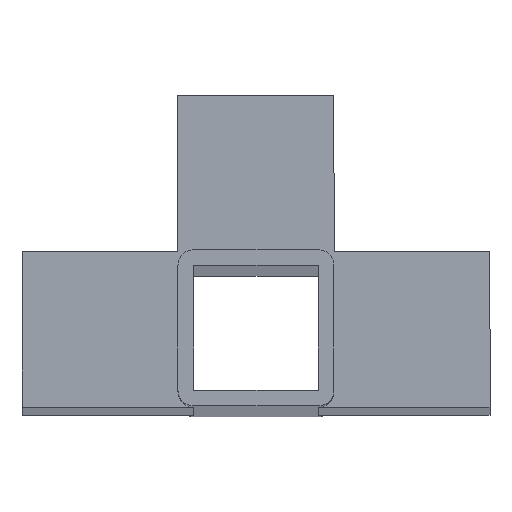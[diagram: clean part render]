
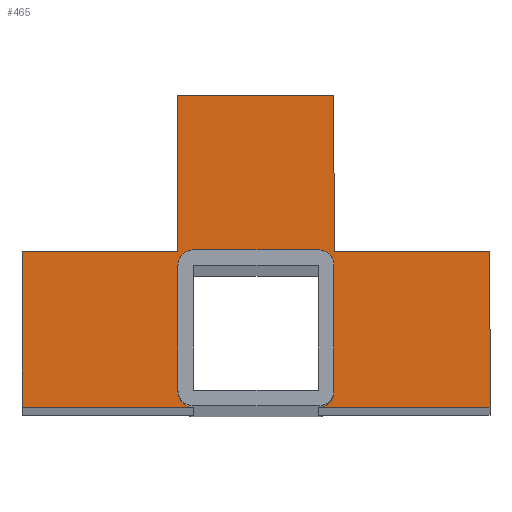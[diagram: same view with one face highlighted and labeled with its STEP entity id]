
A CAD part, top view. The second image highlights one B-rep face of the part: STEP entity #465.
In plain terms, the highlighted planar face has unit normal (0, 0, 1).
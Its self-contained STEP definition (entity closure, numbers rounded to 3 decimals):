
#29 = VERTEX_POINT ( 'NONE', #337 ) ;
#44 = ORIENTED_EDGE ( 'NONE', *, *, #412, .T. ) ;
#55 = LINE ( 'NONE', #994, #571 ) ;
#69 = CARTESIAN_POINT ( 'NONE',  ( -45., -15., 450. ) ) ;
#91 = VECTOR ( 'NONE', #210, 1000. ) ;
#99 = VECTOR ( 'NONE', #417, 1000. ) ;
#101 = CARTESIAN_POINT ( 'NONE',  ( -15., 12., 450. ) ) ;
#106 = CARTESIAN_POINT ( 'NONE',  ( -15., 15., 450. ) ) ;
#145 = VECTOR ( 'NONE', #169, 1000. ) ;
#147 = ORIENTED_EDGE ( 'NONE', *, *, #992, .F. ) ;
#169 = DIRECTION ( 'NONE',  ( -1., 0., 0. ) ) ;
#170 = CARTESIAN_POINT ( 'NONE',  ( 0., 15., 450. ) ) ;
#194 = EDGE_LOOP ( 'NONE', ( #505, #815, #44, #809, #506, #230, #425, #833, #1317, #364, #1320, #147, #982, #422, #648, #983 ) ) ;
#210 = DIRECTION ( 'NONE',  ( 0., -1., 0. ) ) ;
#214 = VERTEX_POINT ( 'NONE', #764 ) ;
#226 = VERTEX_POINT ( 'NONE', #256 ) ;
#230 = ORIENTED_EDGE ( 'NONE', *, *, #529, .F. ) ;
#251 = EDGE_CURVE ( 'NONE', #1288, #1078, #454, .T. ) ;
#256 = CARTESIAN_POINT ( 'NONE',  ( 45., 15., 450. ) ) ;
#276 = AXIS2_PLACEMENT_3D ( 'NONE', #700, #1219, #1117 ) ;
#280 = DIRECTION ( 'NONE',  ( 1., 0., 0. ) ) ;
#281 = VECTOR ( 'NONE', #623, 1000. ) ;
#289 = CARTESIAN_POINT ( 'NONE',  ( 0., 0., 450. ) ) ;
#307 = VECTOR ( 'NONE', #369, 1000. ) ;
#319 = CIRCLE ( 'NONE', #276, 3. ) ;
#322 = EDGE_CURVE ( 'NONE', #434, #475, #55, .T. ) ;
#331 = VERTEX_POINT ( 'NONE', #1201 ) ;
#337 = CARTESIAN_POINT ( 'NONE',  ( -15., 45., 450. ) ) ;
#341 = LINE ( 'NONE', #682, #307 ) ;
#364 = ORIENTED_EDGE ( 'NONE', *, *, #420, .F. ) ;
#369 = DIRECTION ( 'NONE',  ( 0., -1., 0. ) ) ;
#378 = CARTESIAN_POINT ( 'NONE',  ( 0., -15., 450. ) ) ;
#391 = VERTEX_POINT ( 'NONE', #709 ) ;
#404 = VERTEX_POINT ( 'NONE', #916 ) ;
#409 = DIRECTION ( 'NONE',  ( 1., 0., 0. ) ) ;
#412 = EDGE_CURVE ( 'NONE', #532, #434, #319, .T. ) ;
#417 = DIRECTION ( 'NONE',  ( -1., 0., 0. ) ) ;
#420 = EDGE_CURVE ( 'NONE', #29, #1146, #943, .T. ) ;
#422 = ORIENTED_EDGE ( 'NONE', *, *, #251, .F. ) ;
#425 = ORIENTED_EDGE ( 'NONE', *, *, #615, .F. ) ;
#429 = LINE ( 'NONE', #905, #570 ) ;
#434 = VERTEX_POINT ( 'NONE', #1228 ) ;
#446 = LINE ( 'NONE', #996, #1105 ) ;
#454 = LINE ( 'NONE', #378, #145 ) ;
#465 = ADVANCED_FACE ( 'NONE', ( #1150 ), #1120, .T. ) ;
#475 = VERTEX_POINT ( 'NONE', #498 ) ;
#485 = DIRECTION ( 'NONE',  ( 0., -1., 0. ) ) ;
#487 = DIRECTION ( 'NONE',  ( 0., -1., 0. ) ) ;
#488 = DIRECTION ( 'NONE',  ( 1., 0., 0. ) ) ;
#496 = AXIS2_PLACEMENT_3D ( 'NONE', #289, #1106, #605 ) ;
#498 = CARTESIAN_POINT ( 'NONE',  ( 15., -12., 450. ) ) ;
#505 = ORIENTED_EDGE ( 'NONE', *, *, #1241, .F. ) ;
#506 = ORIENTED_EDGE ( 'NONE', *, *, #576, .F. ) ;
#510 = CARTESIAN_POINT ( 'NONE',  ( 0., 45., 450. ) ) ;
#517 = EDGE_CURVE ( 'NONE', #1208, #29, #872, .T. ) ;
#518 = CARTESIAN_POINT ( 'NONE',  ( 12., 15., 450. ) ) ;
#529 = EDGE_CURVE ( 'NONE', #391, #692, #987, .T. ) ;
#532 = VERTEX_POINT ( 'NONE', #518 ) ;
#562 = LINE ( 'NONE', #918, #1071 ) ;
#568 = CIRCLE ( 'NONE', #760, 3. ) ;
#570 = VECTOR ( 'NONE', #485, 1000. ) ;
#571 = VECTOR ( 'NONE', #487, 1000. ) ;
#576 = EDGE_CURVE ( 'NONE', #692, #475, #770, .T. ) ;
#584 = VECTOR ( 'NONE', #637, 1000. ) ;
#586 = DIRECTION ( 'NONE',  ( 1., 0., 0. ) ) ;
#605 = DIRECTION ( 'NONE',  ( 1., 0., 0. ) ) ;
#610 = CARTESIAN_POINT ( 'NONE',  ( -15., 0., 450. ) ) ;
#615 = EDGE_CURVE ( 'NONE', #226, #391, #429, .T. ) ;
#623 = DIRECTION ( 'NONE',  ( 0., 1., 0. ) ) ;
#636 = CARTESIAN_POINT ( 'NONE',  ( -45., 15., 450. ) ) ;
#637 = DIRECTION ( 'NONE',  ( 0., 1., 0. ) ) ;
#641 = CARTESIAN_POINT ( 'NONE',  ( -45., 0., 450. ) ) ;
#643 = DIRECTION ( 'NONE',  ( 1., 0., 0. ) ) ;
#648 = ORIENTED_EDGE ( 'NONE', *, *, #1163, .F. ) ;
#682 = CARTESIAN_POINT ( 'NONE',  ( 15., 0., 450. ) ) ;
#692 = VERTEX_POINT ( 'NONE', #728 ) ;
#700 = CARTESIAN_POINT ( 'NONE',  ( 12., 12., 450. ) ) ;
#709 = CARTESIAN_POINT ( 'NONE',  ( 45., -15., 450. ) ) ;
#712 = AXIS2_PLACEMENT_3D ( 'NONE', #934, #726, #409 ) ;
#726 = DIRECTION ( 'NONE',  ( 0., 0., 1. ) ) ;
#728 = CARTESIAN_POINT ( 'NONE',  ( 12., -15., 450. ) ) ;
#760 = AXIS2_PLACEMENT_3D ( 'NONE', #1205, #1114, #488 ) ;
#764 = CARTESIAN_POINT ( 'NONE',  ( -15., -12., 450. ) ) ;
#766 = VECTOR ( 'NONE', #586, 1000. ) ;
#770 = CIRCLE ( 'NONE', #806, 3. ) ;
#803 = DIRECTION ( 'NONE',  ( 1., 0., 0. ) ) ;
#806 = AXIS2_PLACEMENT_3D ( 'NONE', #991, #1103, #280 ) ;
#809 = ORIENTED_EDGE ( 'NONE', *, *, #322, .T. ) ;
#815 = ORIENTED_EDGE ( 'NONE', *, *, #896, .T. ) ;
#820 = VECTOR ( 'NONE', #803, 1000. ) ;
#833 = ORIENTED_EDGE ( 'NONE', *, *, #1200, .F. ) ;
#839 = CARTESIAN_POINT ( 'NONE',  ( 0., -15., 450. ) ) ;
#872 = LINE ( 'NONE', #610, #281 ) ;
#891 = EDGE_CURVE ( 'NONE', #1078, #1333, #902, .T. ) ;
#896 = EDGE_CURVE ( 'NONE', #404, #532, #562, .T. ) ;
#902 = LINE ( 'NONE', #641, #584 ) ;
#905 = CARTESIAN_POINT ( 'NONE',  ( 45., 0., 450. ) ) ;
#916 = CARTESIAN_POINT ( 'NONE',  ( -12., 15., 450. ) ) ;
#918 = CARTESIAN_POINT ( 'NONE',  ( 0., 15., 450. ) ) ;
#934 = CARTESIAN_POINT ( 'NONE',  ( -12., 12., 450. ) ) ;
#943 = LINE ( 'NONE', #510, #820 ) ;
#982 = ORIENTED_EDGE ( 'NONE', *, *, #891, .F. ) ;
#983 = ORIENTED_EDGE ( 'NONE', *, *, #1268, .F. ) ;
#987 = LINE ( 'NONE', #839, #99 ) ;
#991 = CARTESIAN_POINT ( 'NONE',  ( 12., -12., 450. ) ) ;
#992 = EDGE_CURVE ( 'NONE', #1333, #1208, #446, .T. ) ;
#994 = CARTESIAN_POINT ( 'NONE',  ( 15., 0., 450. ) ) ;
#996 = CARTESIAN_POINT ( 'NONE',  ( 0., 15., 450. ) ) ;
#1023 = EDGE_CURVE ( 'NONE', #1146, #331, #341, .T. ) ;
#1039 = CARTESIAN_POINT ( 'NONE',  ( -12., -15., 450. ) ) ;
#1071 = VECTOR ( 'NONE', #643, 1000. ) ;
#1078 = VERTEX_POINT ( 'NONE', #69 ) ;
#1094 = LINE ( 'NONE', #170, #766 ) ;
#1100 = CARTESIAN_POINT ( 'NONE',  ( 15., 45., 450. ) ) ;
#1103 = DIRECTION ( 'NONE',  ( 0., 0., 1. ) ) ;
#1105 = VECTOR ( 'NONE', #1115, 1000. ) ;
#1106 = DIRECTION ( 'NONE',  ( 0., 0., 1. ) ) ;
#1114 = DIRECTION ( 'NONE',  ( 0., 0., 1. ) ) ;
#1115 = DIRECTION ( 'NONE',  ( 1., 0., 0. ) ) ;
#1117 = DIRECTION ( 'NONE',  ( 1., 0., 0. ) ) ;
#1120 = PLANE ( 'NONE',  #496 ) ;
#1146 = VERTEX_POINT ( 'NONE', #1100 ) ;
#1150 = FACE_OUTER_BOUND ( 'NONE', #194, .T. ) ;
#1163 = EDGE_CURVE ( 'NONE', #214, #1288, #568, .T. ) ;
#1200 = EDGE_CURVE ( 'NONE', #331, #226, #1094, .T. ) ;
#1201 = CARTESIAN_POINT ( 'NONE',  ( 15., 15., 450. ) ) ;
#1205 = CARTESIAN_POINT ( 'NONE',  ( -12., -12., 450. ) ) ;
#1208 = VERTEX_POINT ( 'NONE', #106 ) ;
#1219 = DIRECTION ( 'NONE',  ( 0., 0., -1. ) ) ;
#1228 = CARTESIAN_POINT ( 'NONE',  ( 15., 12., 450. ) ) ;
#1233 = CARTESIAN_POINT ( 'NONE',  ( -15., 0., 450. ) ) ;
#1241 = EDGE_CURVE ( 'NONE', #404, #1254, #1274, .T. ) ;
#1251 = LINE ( 'NONE', #1233, #91 ) ;
#1254 = VERTEX_POINT ( 'NONE', #101 ) ;
#1268 = EDGE_CURVE ( 'NONE', #1254, #214, #1251, .T. ) ;
#1274 = CIRCLE ( 'NONE', #712, 3. ) ;
#1288 = VERTEX_POINT ( 'NONE', #1039 ) ;
#1317 = ORIENTED_EDGE ( 'NONE', *, *, #1023, .F. ) ;
#1320 = ORIENTED_EDGE ( 'NONE', *, *, #517, .F. ) ;
#1333 = VERTEX_POINT ( 'NONE', #636 ) ;
